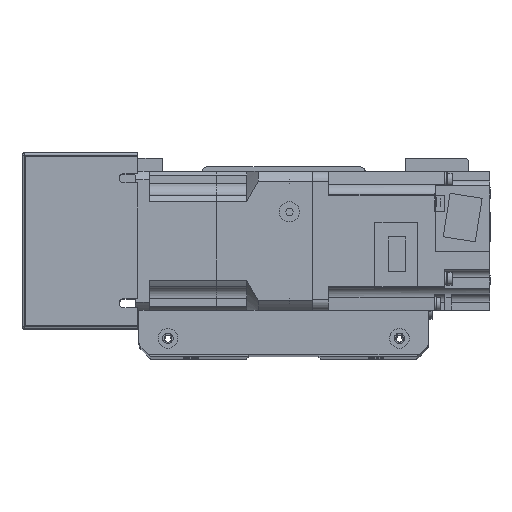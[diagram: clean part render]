
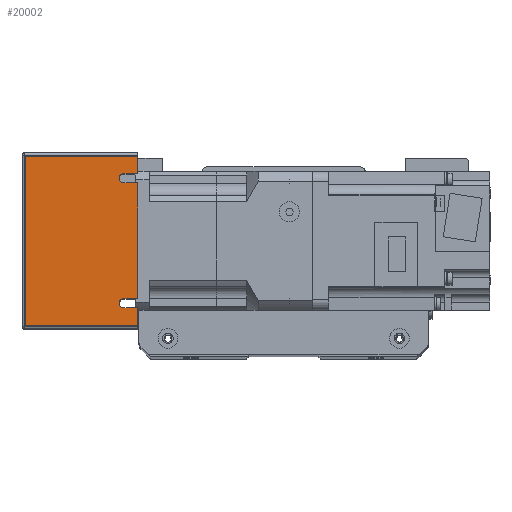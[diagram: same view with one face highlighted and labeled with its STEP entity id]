
A CAD part, top view. The second image highlights one B-rep face of the part: STEP entity #20002.
In plain terms, the highlighted planar face has unit normal (0, 0, 1) as drawn and (-1, 0, 0) by its records, which use the part's own axes.
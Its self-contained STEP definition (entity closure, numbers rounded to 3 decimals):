
#706=PLANE('',#22152);
#2036=LINE('',#33846,#3660);
#2045=LINE('',#33865,#3669);
#2052=LINE('',#33882,#3676);
#2060=LINE('',#33900,#3684);
#2073=LINE('',#33939,#3697);
#2078=LINE('',#33951,#3702);
#2082=LINE('',#33963,#3706);
#2085=LINE('',#33973,#3709);
#2086=LINE('',#33975,#3710);
#2087=LINE('',#33976,#3711);
#3660=VECTOR('',#27417,10.);
#3669=VECTOR('',#27430,10.);
#3676=VECTOR('',#27441,10.);
#3684=VECTOR('',#27453,10.);
#3697=VECTOR('',#27496,10.);
#3702=VECTOR('',#27507,10.);
#3706=VECTOR('',#27517,10.);
#3709=VECTOR('',#27528,10.);
#3710=VECTOR('',#27529,10.);
#3711=VECTOR('',#27530,10.);
#6018=FACE_OUTER_BOUND('',#7610,.T.);
#7610=EDGE_LOOP('',(#17971,#17972,#17973,#17974,#17975,#17976,#17977,#17978,
#17979,#17980,#17981,#17982));
#8746=CIRCLE('',#22130,2.);
#8751=CIRCLE('',#22138,2.);
#10431=VERTEX_POINT('',#33843);
#10432=VERTEX_POINT('',#33845);
#10438=VERTEX_POINT('',#33859);
#10440=VERTEX_POINT('',#33863);
#10447=VERTEX_POINT('',#33879);
#10448=VERTEX_POINT('',#33881);
#10455=VERTEX_POINT('',#33897);
#10456=VERTEX_POINT('',#33899);
#10467=VERTEX_POINT('',#33937);
#10476=VERTEX_POINT('',#33962);
#10479=VERTEX_POINT('',#33972);
#10480=VERTEX_POINT('',#33974);
#12978=EDGE_CURVE('',#10432,#10431,#2036,.T.);
#12987=EDGE_CURVE('',#10438,#10440,#2045,.T.);
#12994=EDGE_CURVE('',#10448,#10447,#2052,.T.);
#13002=EDGE_CURVE('',#10456,#10455,#2060,.T.);
#13008=EDGE_CURVE('',#10440,#10432,#8746,.T.);
#13019=EDGE_CURVE('',#10455,#10448,#8751,.T.);
#13024=EDGE_CURVE('',#10467,#10447,#2073,.T.);
#13031=EDGE_CURVE('',#10456,#10431,#2078,.T.);
#13037=EDGE_CURVE('',#10438,#10476,#2082,.T.);
#13042=EDGE_CURVE('',#10479,#10467,#2085,.T.);
#13043=EDGE_CURVE('',#10480,#10479,#2086,.T.);
#13044=EDGE_CURVE('',#10476,#10480,#2087,.T.);
#17971=ORIENTED_EDGE('',*,*,#12978,.T.);
#17972=ORIENTED_EDGE('',*,*,#13031,.F.);
#17973=ORIENTED_EDGE('',*,*,#13002,.T.);
#17974=ORIENTED_EDGE('',*,*,#13019,.T.);
#17975=ORIENTED_EDGE('',*,*,#12994,.T.);
#17976=ORIENTED_EDGE('',*,*,#13024,.F.);
#17977=ORIENTED_EDGE('',*,*,#13042,.F.);
#17978=ORIENTED_EDGE('',*,*,#13043,.F.);
#17979=ORIENTED_EDGE('',*,*,#13044,.F.);
#17980=ORIENTED_EDGE('',*,*,#13037,.F.);
#17981=ORIENTED_EDGE('',*,*,#12987,.T.);
#17982=ORIENTED_EDGE('',*,*,#13008,.T.);
#20002=ADVANCED_FACE('',(#6018),#706,.T.);
#22130=AXIS2_PLACEMENT_3D('',#33912,#27463,#27464);
#22138=AXIS2_PLACEMENT_3D('',#33930,#27485,#27486);
#22152=AXIS2_PLACEMENT_3D('',#33971,#27526,#27527);
#27417=DIRECTION('',(0.,0.,1.));
#27430=DIRECTION('',(0.,0.,-1.));
#27441=DIRECTION('',(0.,0.,1.));
#27453=DIRECTION('',(0.,0.,-1.));
#27463=DIRECTION('center_axis',(1.,0.,0.));
#27464=DIRECTION('ref_axis',(0.,0.,1.));
#27485=DIRECTION('center_axis',(1.,0.,0.));
#27486=DIRECTION('ref_axis',(0.,0.,1.));
#27496=DIRECTION('',(0.,-1.,0.));
#27507=DIRECTION('',(0.,-1.,0.));
#27517=DIRECTION('',(0.,-1.,0.));
#27526=DIRECTION('center_axis',(-1.,0.,0.));
#27527=DIRECTION('ref_axis',(0.,-1.,0.));
#27528=DIRECTION('',(0.,0.,1.));
#27529=DIRECTION('',(0.,1.,0.));
#27530=DIRECTION('',(0.,0.,-1.));
#33843=CARTESIAN_POINT('',(-91.,-25.,25.));
#33845=CARTESIAN_POINT('',(-91.,-25.,19.));
#33846=CARTESIAN_POINT('',(-91.,-25.,9.5));
#33859=CARTESIAN_POINT('',(-91.,-29.,25.));
#33863=CARTESIAN_POINT('',(-91.,-29.,19.));
#33865=CARTESIAN_POINT('',(-91.,-29.,15.178));
#33879=CARTESIAN_POINT('',(-91.,29.,25.));
#33881=CARTESIAN_POINT('',(-91.,29.,19.));
#33882=CARTESIAN_POINT('',(-91.,29.,9.5));
#33897=CARTESIAN_POINT('',(-91.,25.,19.));
#33899=CARTESIAN_POINT('',(-91.,25.,25.));
#33900=CARTESIAN_POINT('',(-91.,25.,15.178));
#33912=CARTESIAN_POINT('Origin',(-91.,-27.,19.));
#33930=CARTESIAN_POINT('Origin',(-91.,27.,19.));
#33937=CARTESIAN_POINT('',(-91.,37.,25.));
#33939=CARTESIAN_POINT('',(-91.,-38.,25.));
#33951=CARTESIAN_POINT('',(-91.,-38.,25.));
#33962=CARTESIAN_POINT('',(-91.,-37.,25.));
#33963=CARTESIAN_POINT('',(-91.,-38.,25.));
#33971=CARTESIAN_POINT('Origin',(-91.,38.,0.));
#33972=CARTESIAN_POINT('',(-91.,37.,-24.));
#33973=CARTESIAN_POINT('',(-91.,37.,0.));
#33974=CARTESIAN_POINT('',(-91.,-37.,-24.));
#33975=CARTESIAN_POINT('',(-91.,19.,-24.));
#33976=CARTESIAN_POINT('',(-91.,-37.,0.));
